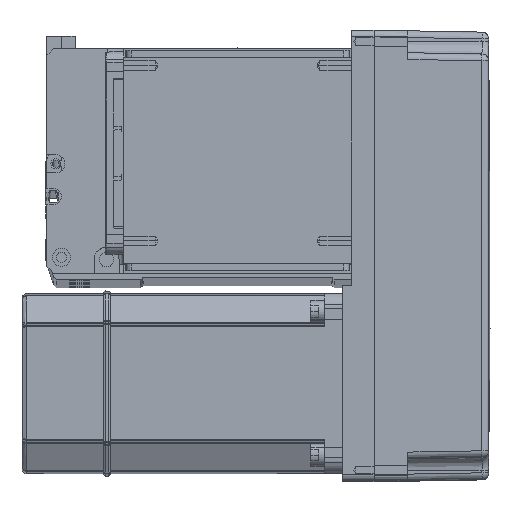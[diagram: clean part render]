
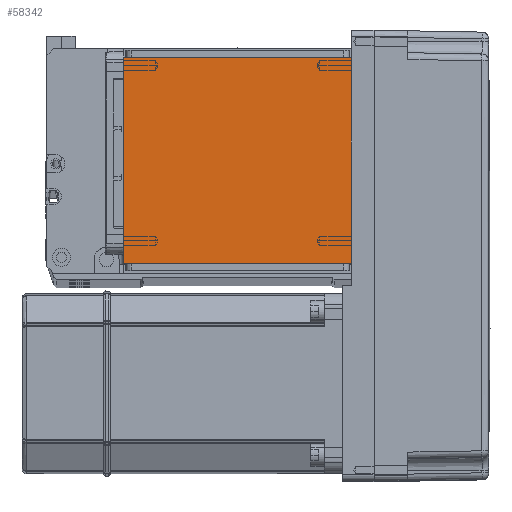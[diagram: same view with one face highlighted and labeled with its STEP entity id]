
A CAD part, top view. The second image highlights one B-rep face of the part: STEP entity #58342.
In plain terms, the highlighted planar face has unit normal (0, 0, 1).
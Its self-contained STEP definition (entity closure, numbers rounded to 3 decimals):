
#739 = LINE ( 'NONE', #32862, #22338 ) ;
#4123 = CARTESIAN_POINT ( 'NONE',  ( -50.5, 111.5, 115. ) ) ;
#4892 = DIRECTION ( 'NONE',  ( 1., 0., 0. ) ) ;
#5722 = ORIENTED_EDGE ( 'NONE', *, *, #39538, .T. ) ;
#6446 = VERTEX_POINT ( 'NONE', #30871 ) ;
#8146 = VECTOR ( 'NONE', #49231, 1000. ) ;
#10455 = VERTEX_POINT ( 'NONE', #4123 ) ;
#10610 = ORIENTED_EDGE ( 'NONE', *, *, #43209, .T. ) ;
#11264 = CARTESIAN_POINT ( 'NONE',  ( 50.5, 20., 115. ) ) ;
#11312 = DIRECTION ( 'NONE',  ( 0., -1., 0. ) ) ;
#12124 = CARTESIAN_POINT ( 'NONE',  ( -50.5, 122., 115. ) ) ;
#14199 = CARTESIAN_POINT ( 'NONE',  ( 0., 0., 115. ) ) ;
#16186 = LINE ( 'NONE', #42568, #54395 ) ;
#18888 = ORIENTED_EDGE ( 'NONE', *, *, #33998, .F. ) ;
#21213 = VECTOR ( 'NONE', #11312, 1000. ) ;
#22338 = VECTOR ( 'NONE', #28453, 1000. ) ;
#22674 = CARTESIAN_POINT ( 'NONE',  ( 50.5, 111.5, 115. ) ) ;
#28453 = DIRECTION ( 'NONE',  ( 0., 1., 0. ) ) ;
#29924 = CARTESIAN_POINT ( 'NONE',  ( -70.004, 111.5, 115. ) ) ;
#30871 = CARTESIAN_POINT ( 'NONE',  ( -50.5, 20., 115. ) ) ;
#32862 = CARTESIAN_POINT ( 'NONE',  ( 50.5, 122., 115. ) ) ;
#32957 = DIRECTION ( 'NONE',  ( -1., 0., 0. ) ) ;
#33054 = EDGE_CURVE ( 'NONE', #10455, #45015, #59029, .T. ) ;
#33998 = EDGE_CURVE ( 'NONE', #42270, #6446, #16186, .T. ) ;
#35203 = AXIS2_PLACEMENT_3D ( 'NONE', #14199, #47448, #4892 ) ;
#39538 = EDGE_CURVE ( 'NONE', #42270, #45015, #739, .T. ) ;
#42270 = VERTEX_POINT ( 'NONE', #11264 ) ;
#42568 = CARTESIAN_POINT ( 'NONE',  ( -70.004, 20., 115. ) ) ;
#43209 = EDGE_CURVE ( 'NONE', #10455, #6446, #54927, .T. ) ;
#45015 = VERTEX_POINT ( 'NONE', #22674 ) ;
#46035 = EDGE_LOOP ( 'NONE', ( #49131, #10610, #18888, #5722 ) ) ;
#47448 = DIRECTION ( 'NONE',  ( 0., 0., 1. ) ) ;
#47866 = FACE_OUTER_BOUND ( 'NONE', #46035, .T. ) ;
#49131 = ORIENTED_EDGE ( 'NONE', *, *, #33054, .F. ) ;
#49231 = DIRECTION ( 'NONE',  ( 1., 0., 0. ) ) ;
#51841 = PLANE ( 'NONE',  #35203 ) ;
#54395 = VECTOR ( 'NONE', #32957, 1000. ) ;
#54927 = LINE ( 'NONE', #12124, #21213 ) ;
#58342 = ADVANCED_FACE ( 'NONE', ( #47866 ), #51841, .T. ) ;
#59029 = LINE ( 'NONE', #29924, #8146 ) ;
